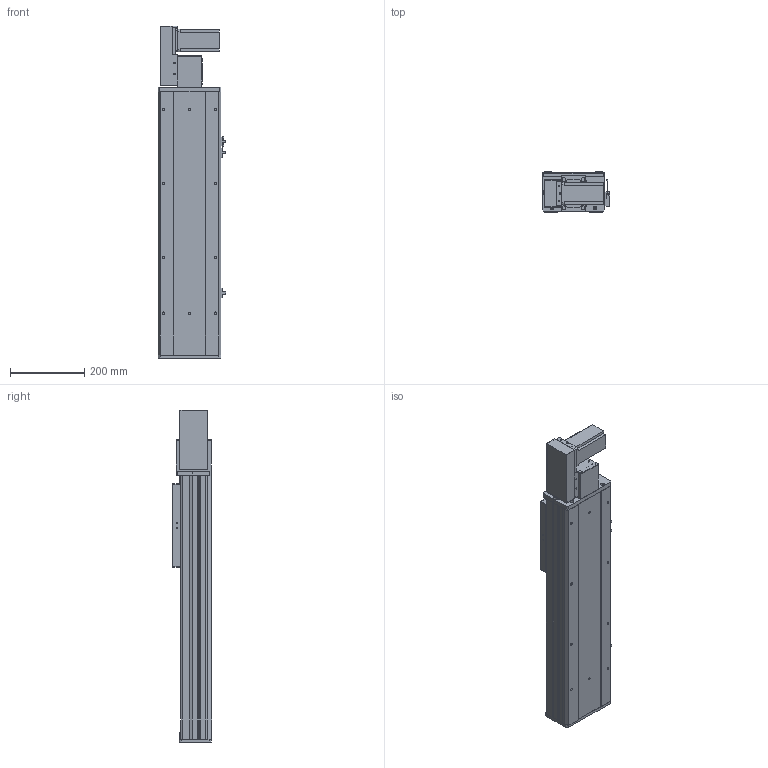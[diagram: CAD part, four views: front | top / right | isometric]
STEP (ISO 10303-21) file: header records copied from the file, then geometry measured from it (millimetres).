
FILE_DESCRIPTION (( 'STEP AP203' ), '1' );
FILE_NAME ('Y170CB-D105-S400-BL-P400W.STEP', '2020-02-20T01:05:28', ( '微软用户' ), ( '微软中国' ), 'SwSTEP 2.0', 'SolidWorks 2017', '' );
FILE_SCHEMA (( 'CONFIG_CONTROL_DESIGN' ));
Length unit declared in the file: millimetre
Products named in the file (18): 70CB-詩湍--; Y70俋欶BR----; Y100-135俋离換覜ん--; 70CB-掛极-; Y170CB-陔俋离換覜結え---; --70CB --喘謫眊楊擘啣-; 70B喘謫眊----; 70CB-耜裔啣-; Y1埴倛裔; 70C--詩湍揤踡え-; B-源倛裔啣; Y170CB-D105-S400-BL-P400W; 70CB--耜裔; 17B-耜蚾蟀諉啣----; 70C-雄赽釱-奻-; 0B-萇儂楊擘啣; 0C--雄赽釱俋欶-170; san松下电机400不带刹车----
Assembly tree (21 placements, depth 2):
  Y170CB-D105-S400-BL-P400W
    B-源倛裔啣
    17B-耜蚾蟀諉啣----
    0B-萇儂楊擘啣
    san松下电机400不带刹车----
    Y70俋欶BR----
    70CB-掛极-
    --70CB --喘謫眊楊擘啣-
    70CB-耜裔啣-  x2
    70C--詩湍揤踡え-  x2
    70CB--耜裔
    70C-雄赽釱-奻-
    0C--雄赽釱俋欶-170
    70CB-詩湍--
    Y100-135俋离換覜ん--  x3
    Y170CB-陔俋离換覜結え---
    70B喘謫眊----
    Y1埴倛裔
Bounding box: 183.5 x 107 x 897 mm (x, y, z)
Volume: 4175236.3 mm3; surface area: 1480999.8 mm2
Topology: 21 solids, 21 shells, 983 faces, 2621 edges, 1738 vertices
Faces by surface type: cylinder 495, plane 464, cone 24
Entity records: 31152 total; most frequent: CARTESIAN_POINT 5676, DIRECTION 5062, ORIENTED_EDGE 4724, EDGE_CURVE 2362, AXIS2_PLACEMENT_3D 1844, VERTEX_POINT 1568, LINE 1374, VECTOR 1374
